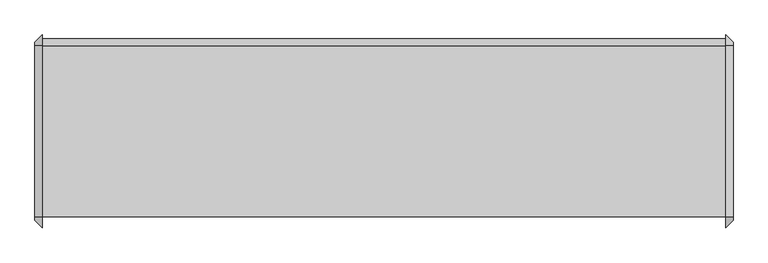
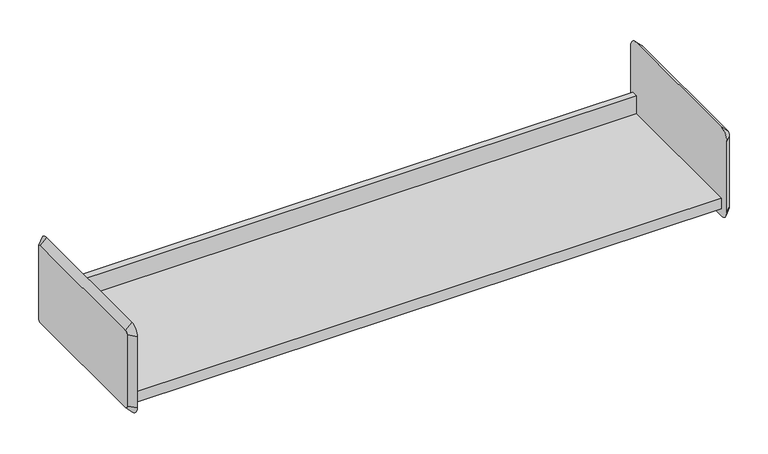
"""IFC4 building model written with IfcOpenShell, lengths in millimetres: furniture geometry."""

from ifc_helpers import new_model, si_unit, frame, origin, place, context, project, spatial, polyline, circle_curve, outline, extrude, source, transform, mapped, element, save
from ifc_brep_helpers import plane_surface, revolved_surface, advanced_brep


def furniture_0be50922(model_context):
    return source(origin(), model_context, "Body", "SolidModel", [
        extrude(outline(polyline([(-136.525, 1751.48748), (161.925, 1751.48748), (161.925, 1789.58748), (174.625, 1789.58748), (174.625, 1786.41248), (165.1, 1786.41248), (165.1, 1748.31248), (-133.35, 1748.31248), (-133.35, 1729.26248), (-136.525, 1729.26248), (-136.525, 1751.48748)])), frame((-720.8420045, 0.0, 0.0), z_axis=(1.0, 0.0, 0.0), x_axis=(0.0, 1.0, 0.0)), (0.0, 0.0, 1.0), 1193.8),
        advanced_brep(
        [(485.6579955, 161.925, 1891.18748), (485.6579955, -136.525, 1891.18748), (485.6579955, -142.875, 1884.83748), (485.6579955, -142.875, 1732.43748), (485.6579955, -136.525, 1726.08748), (485.6579955, 161.925, 1726.08748), (485.6579955, 168.275, 1732.43748), (485.6579955, 168.275, 1884.83748), (472.9579955, 161.925, 1903.88748), (472.9579955, 180.975, 1884.83748), (472.9579955, 180.975, 1732.43748), (472.9579955, 161.925, 1713.38748), (472.9579955, -136.525, 1713.38748), (472.9579955, -155.575, 1732.43748), (472.9579955, -155.575, 1884.83748), (472.9579955, -136.525, 1903.88748)],
        [
            (0, 1),
            (1, 2, circle_curve(frame((485.6579955, -136.525, 1884.83748), z_axis=(1.0, 2.0730084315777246e-12, -2.131628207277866e-12), x_axis=(2.131557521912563e-12, 0.0, 1.0)), 6.35)),
            (2, 3),
            (3, 4, circle_curve(frame((485.6579955, -136.525, 1732.43748), z_axis=(1.0, 2.0596857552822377e-12, 2.046363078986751e-12), x_axis=(2.059647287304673e-12, -1.0, 0.0)), 6.35)),
            (4, 5),
            (5, 6, circle_curve(frame((485.6579955, 161.925, 1732.43748), z_axis=(1.0, 2.0889956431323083e-12, -2.0889956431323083e-12), x_axis=(-2.0890080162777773e-12, 0.0, -1.0)), 6.35)),
            (6, 7),
            (7, 0, circle_curve(frame((485.6579955, 161.925, 1884.83748), z_axis=(1.0, 2.0783375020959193e-12, 2.003730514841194e-12), x_axis=(-2.0783313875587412e-12, 1.0, 0.0)), 6.35)),
            (8, 9, circle_curve(frame((472.9579955, 161.925, 1884.83748), z_axis=(-1.0, -2.0783375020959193e-12, -2.003730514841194e-12), x_axis=(-2.0783313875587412e-12, 1.0, 0.0)), 19.05)),
            (9, 10),
            (10, 11, circle_curve(frame((472.9579955, 161.925, 1732.43748), z_axis=(-1.0, -2.0889956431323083e-12, 2.0889956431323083e-12), x_axis=(-2.0890080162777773e-12, 0.0, -1.0)), 19.05)),
            (11, 12),
            (12, 13, circle_curve(frame((472.9579955, -136.525, 1732.43748), z_axis=(-1.0, -2.0596857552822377e-12, -2.046363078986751e-12), x_axis=(2.059647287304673e-12, -1.0, 0.0)), 19.05)),
            (13, 14),
            (14, 15, circle_curve(frame((472.9579955, -136.525, 1884.83748), z_axis=(-1.0, -2.0730084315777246e-12, 2.131628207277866e-12), x_axis=(2.131557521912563e-12, 0.0, 1.0)), 19.05)),
            (15, 8),
            (15, 1),
            (0, 8),
            (14, 2),
            (13, 3),
            (12, 4),
            (11, 5),
            (10, 6),
            (9, 7),
        ],
        [
            plane_surface(frame((485.6579955, 12.7, 1808.63748), z_axis=(1.0, 0.0, 0.0), x_axis=(0.0, -1.0, 0.0))),
            plane_surface(frame((472.9579955, 12.7, 1808.63748), z_axis=(-1.0, 0.0, 0.0), x_axis=(0.0, -1.0, 0.0))),
            plane_surface(frame((472.9579955, 12.7, 1903.88748), z_axis=(0.7071067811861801, 0.0, 0.707106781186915), x_axis=(0.0, -1.0, 0.0))),
            revolved_surface(polyline([(485.65799550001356, -136.525, 1891.1874799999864), (472.9579955, -136.525, 1903.88748)]), (492.0079955, -136.525, 1884.83748), (-1.0, -2.0730084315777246e-12, 2.131628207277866e-12)),
            plane_surface(frame((472.9579955, -155.575, 1808.63748), z_axis=(0.7071067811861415, -0.7071067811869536, 0.0), x_axis=(0.0, 0.0, -1.0))),
            revolved_surface(polyline([(485.6579955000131, -142.87499999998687, 1732.43748), (472.9579955, -155.575, 1732.43748)]), (492.0079955, -136.525, 1732.43748), (-1.0, -2.0596857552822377e-12, -2.046363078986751e-12)),
            plane_surface(frame((472.9579955, 12.7, 1713.38748), z_axis=(0.7071067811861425, 0.0, -0.7071067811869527), x_axis=(0.0, 1.0, 0.0))),
            revolved_surface(polyline([(485.6579955, 161.925, 1726.0874800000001), (472.9579954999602, 161.925, 1713.3874799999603)]), (492.0079955, 161.925, 1732.43748), (-1.0, -2.0889956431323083e-12, 2.0889956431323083e-12)),
            plane_surface(frame((472.9579955, 180.975, 1808.63748), z_axis=(0.7071067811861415, 0.7071067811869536, 0.0), x_axis=(0.0, 0.0, 1.0))),
            revolved_surface(polyline([(485.6579955, 168.27499999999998, 1884.83748), (472.95799549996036, 180.97500000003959, 1884.83748)]), (492.0079955, 161.925, 1884.83748), (-1.0, -2.0783375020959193e-12, -2.003730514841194e-12)),
        ],
        [
            (0, [[1, 2, 3, 4, 5, 6, 7, 8]]),
            (1, [[9, 10, 11, 12, 13, 14, 15, 16]]),
            (2, [[-16, 17, -1, 18]]),
            (3, [[-15, 19, -2, -17]]),
            (4, [[-14, 20, -3, -19]]),
            (5, [[-13, 21, -4, -20]]),
            (6, [[-12, 22, -5, -21]]),
            (7, [[-11, 23, -6, -22]]),
            (8, [[-10, 24, -7, -23]]),
            (9, [[-9, -18, -8, -24]]),
        ],
    ),
        advanced_brep(
        [(-733.5420045, -136.525, 1891.18748), (-733.5420045, 161.925, 1891.18748), (-733.5420045, 168.275, 1884.83748), (-733.5420045, 168.275, 1732.43748), (-733.5420045, 161.925, 1726.08748), (-733.5420045, -136.525, 1726.08748), (-733.5420045, -142.875, 1732.43748), (-733.5420045, -142.875, 1884.83748), (-720.8420045, -136.525, 1903.88748), (-720.8420045, -155.575, 1884.83748), (-720.8420045, -155.575, 1732.43748), (-720.8420045, -136.525, 1713.38748), (-720.8420045, 161.925, 1713.38748), (-720.8420045, 180.975, 1732.43748), (-720.8420045, 180.975, 1884.83748), (-720.8420045, 161.925, 1903.88748)],
        [
            (0, 1),
            (1, 2, circle_curve(frame((-733.5420045, 161.925, 1884.83748), z_axis=(-1.0, 0.0, 0.0), x_axis=(0.0, 0.0, 1.0)), 6.35)),
            (2, 3),
            (3, 4, circle_curve(frame((-733.5420045, 161.925, 1732.43748), z_axis=(-1.0, 0.0, 0.0), x_axis=(0.0, 1.0, 0.0)), 6.35)),
            (4, 5),
            (5, 6, circle_curve(frame((-733.5420045, -136.525, 1732.43748), z_axis=(-1.0, 0.0, 0.0), x_axis=(0.0, 0.0, -1.0)), 6.35)),
            (6, 7),
            (7, 0, circle_curve(frame((-733.5420045, -136.525, 1884.83748), z_axis=(-1.0, 0.0, 0.0), x_axis=(0.0, -1.0, 0.0)), 6.35)),
            (8, 9, circle_curve(frame((-720.8420045, -136.525, 1884.83748), z_axis=(1.0, 0.0, 0.0), x_axis=(0.0, -1.0, 0.0)), 19.05)),
            (9, 10),
            (10, 11, circle_curve(frame((-720.8420045, -136.525, 1732.43748), z_axis=(1.0, 0.0, 0.0), x_axis=(0.0, 0.0, -1.0)), 19.05)),
            (11, 12),
            (12, 13, circle_curve(frame((-720.8420045, 161.925, 1732.43748), z_axis=(1.0, 0.0, 0.0), x_axis=(0.0, 1.0, 0.0)), 19.05)),
            (13, 14),
            (14, 15, circle_curve(frame((-720.8420045, 161.925, 1884.83748), z_axis=(1.0, 0.0, 0.0), x_axis=(0.0, 0.0, 1.0)), 19.05)),
            (15, 8),
            (15, 1),
            (0, 8),
            (14, 2),
            (13, 3),
            (12, 4),
            (11, 5),
            (10, 6),
            (9, 7),
        ],
        [
            plane_surface(frame((-733.5420045, 12.7, 1808.63748), z_axis=(-1.0, 0.0, 0.0), x_axis=(0.0, -1.0, 0.0))),
            plane_surface(frame((-720.8420045, 12.7, 1808.63748), z_axis=(1.0, 0.0, 0.0), x_axis=(0.0, -1.0, 0.0))),
            plane_surface(frame((-720.8420045, 12.7, 1903.88748), z_axis=(-0.7071067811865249, 0.0, 0.7071067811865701), x_axis=(0.0, 1.0, 0.0))),
            revolved_surface(polyline([(-733.5420045, 161.925, 1891.18748), (-720.8420045, 161.925, 1903.88748)]), (-739.8920045, 161.925, 1884.83748), (1.0, 0.0, 0.0)),
            plane_surface(frame((-720.8420045, 180.975, 1808.63748), z_axis=(-0.7071067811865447, 0.7071067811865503, 0.0), x_axis=(0.0, 0.0, -1.0))),
            revolved_surface(polyline([(-733.5420045, 168.27500000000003, 1732.43748), (-720.8420045, 180.975, 1732.43748)]), (-739.8920045, 161.925, 1732.43748), (1.0, 0.0, 0.0)),
            plane_surface(frame((-720.8420045, 12.7, 1713.38748), z_axis=(-0.7071067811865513, 0.0, -0.7071067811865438), x_axis=(0.0, -1.0, 0.0))),
            revolved_surface(polyline([(-733.5420045, -136.525, 1726.0874800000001), (-720.8420045, -136.525, 1713.38748)]), (-739.8920045, -136.525, 1732.43748), (1.0, 0.0, 0.0)),
            plane_surface(frame((-720.8420045, -155.575, 1808.63748), z_axis=(-0.7071067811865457, -0.7071067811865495, 0.0), x_axis=(0.0, 0.0, 1.0))),
            revolved_surface(polyline([(-733.5420045, -142.87500000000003, 1884.83748), (-720.8420045, -155.575, 1884.83748)]), (-739.8920045, -136.525, 1884.83748), (1.0, 0.0, 0.0)),
        ],
        [
            (0, [[1, 2, 3, 4, 5, 6, 7, 8]]),
            (1, [[9, 10, 11, 12, 13, 14, 15, 16]]),
            (2, [[-16, 17, -1, 18]]),
            (3, [[-15, 19, -2, -17]]),
            (4, [[-14, 20, -3, -19]]),
            (5, [[-13, 21, -4, -20]]),
            (6, [[-12, 22, -5, -21]]),
            (7, [[-11, 23, -6, -22]]),
            (8, [[-10, 24, -7, -23]]),
            (9, [[-9, -18, -8, -24]]),
        ],
    ),
    ])


if __name__ == "__main__":
    model = new_model("IFC4")
    model_context = context("Model", 3, world=origin())
    ifc_project = project(units=[si_unit("LENGTHUNIT", "METRE", prefix="MILLI")], contexts=[model_context])
    site = spatial("IfcSite", under=ifc_project)
    building = spatial("IfcBuilding", under=site)
    placement = place(None, origin())
    furniture_shape = furniture_0be50922(model_context)
    element("IfcFurniture", 1, ObjectType="HermanMiller_ActionOffice_A3220_B-StyleStorageDisplay : Shelf 13\"D x 48\"W", at=placement, inside=building, context=model_context, shape_type="MappedRepresentation", body=[
        mapped(furniture_shape, transform((0.0, 0.0, 0.0), x_axis=(1.0, 0.0, 0.0), y_axis=(0.0, 1.0, 0.0), z_axis=(0.0, 0.0, 1.0))),
    ])
    save(model, "model.ifc")
